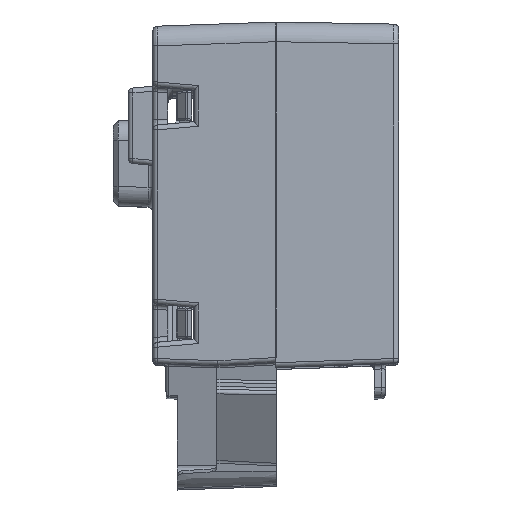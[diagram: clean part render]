
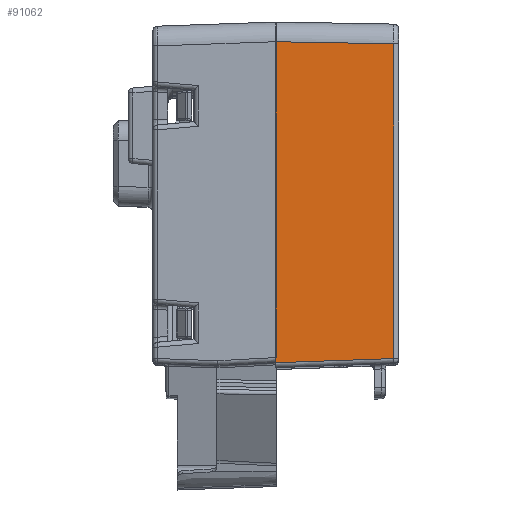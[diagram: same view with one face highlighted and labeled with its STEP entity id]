
A CAD part, top view. The second image highlights one B-rep face of the part: STEP entity #91062.
In plain terms, the highlighted planar face has unit normal (0.018, 0, 1).
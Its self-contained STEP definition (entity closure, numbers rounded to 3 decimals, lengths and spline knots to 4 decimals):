
#871=ELLIPSE('',#96623,0.5648,0.0197);
#1096=ELLIPSE('',#97488,2.2576,0.0787);
#7396=FACE_OUTER_BOUND('',#12449,.T.);
#12449=EDGE_LOOP('',(#75232,#75233,#75234,#75235,#75236,#75237,#75238,#75239,
#75240,#75241,#75242,#75243,#75244));
#23477=LINE('',#148717,#32544);
#23548=LINE('',#148925,#32615);
#23553=LINE('',#148938,#32620);
#23556=LINE('',#148949,#32623);
#23558=LINE('',#148952,#32625);
#23568=LINE('',#148995,#32635);
#23676=LINE('',#150945,#32743);
#23677=LINE('',#150947,#32744);
#23678=LINE('',#150949,#32745);
#23679=LINE('',#150951,#32746);
#23680=LINE('',#150952,#32747);
#32544=VECTOR('',#117798,0.3937);
#32615=VECTOR('',#117979,0.3937);
#32620=VECTOR('',#117990,0.3937);
#32623=VECTOR('',#118007,0.3937);
#32625=VECTOR('',#118011,0.3937);
#32635=VECTOR('',#118055,0.3937);
#32743=VECTOR('',#119113,39.3701);
#32744=VECTOR('',#119114,39.3701);
#32745=VECTOR('',#119115,39.3701);
#32746=VECTOR('',#119116,39.3701);
#32747=VECTOR('',#119117,39.3701);
#39985=VERTEX_POINT('',#143482);
#39986=VERTEX_POINT('',#143483);
#40531=VERTEX_POINT('',#148716);
#40587=VERTEX_POINT('',#148924);
#40591=VERTEX_POINT('',#148936);
#40592=VERTEX_POINT('',#148937);
#40593=VERTEX_POINT('',#148948);
#40609=VERTEX_POINT('',#148994);
#40614=VERTEX_POINT('',#149109);
#40734=VERTEX_POINT('',#150944);
#40735=VERTEX_POINT('',#150946);
#40736=VERTEX_POINT('',#150948);
#40737=VERTEX_POINT('',#150950);
#50919=EDGE_CURVE('',#39985,#39986,#871,.T.);
#51927=EDGE_CURVE('',#39986,#40531,#23477,.T.);
#52016=EDGE_CURVE('',#40587,#39985,#23548,.T.);
#52022=EDGE_CURVE('',#40591,#40592,#23553,.T.);
#52025=EDGE_CURVE('',#40593,#40591,#23556,.T.);
#52027=EDGE_CURVE('',#40592,#40587,#23558,.T.);
#52049=EDGE_CURVE('',#40609,#40593,#23568,.T.);
#52104=EDGE_CURVE('',#40531,#40614,#1096,.T.);
#52444=EDGE_CURVE('',#40734,#40614,#23676,.T.);
#52445=EDGE_CURVE('',#40735,#40734,#23677,.T.);
#52446=EDGE_CURVE('',#40736,#40735,#23678,.T.);
#52447=EDGE_CURVE('',#40737,#40736,#23679,.T.);
#52448=EDGE_CURVE('',#40609,#40737,#23680,.T.);
#75232=ORIENTED_EDGE('',*,*,#52022,.T.);
#75233=ORIENTED_EDGE('',*,*,#52027,.T.);
#75234=ORIENTED_EDGE('',*,*,#52016,.T.);
#75235=ORIENTED_EDGE('',*,*,#50919,.T.);
#75236=ORIENTED_EDGE('',*,*,#51927,.T.);
#75237=ORIENTED_EDGE('',*,*,#52104,.T.);
#75238=ORIENTED_EDGE('',*,*,#52444,.F.);
#75239=ORIENTED_EDGE('',*,*,#52445,.F.);
#75240=ORIENTED_EDGE('',*,*,#52446,.F.);
#75241=ORIENTED_EDGE('',*,*,#52447,.F.);
#75242=ORIENTED_EDGE('',*,*,#52448,.F.);
#75243=ORIENTED_EDGE('',*,*,#52049,.T.);
#75244=ORIENTED_EDGE('',*,*,#52025,.T.);
#82556=PLANE('',#97867);
#91062=ADVANCED_FACE('',(#7396),#82556,.T.);
#96623=AXIS2_PLACEMENT_3D('',#143484,#115844,#115845);
#97488=AXIS2_PLACEMENT_3D('',#149110,#118248,#118249);
#97867=AXIS2_PLACEMENT_3D('',#150943,#119111,#119112);
#115844=DIRECTION('center_axis',(-0.017,0.,
-1.));
#115845=DIRECTION('ref_axis',(0.998,0.052,-0.017));
#117798=DIRECTION('',(0.,1.,0.));
#117979=DIRECTION('',(0.,-1.,0.));
#117990=DIRECTION('',(0.,-1.,0.));
#118007=DIRECTION('',(0.,-1.,0.));
#118011=DIRECTION('',(0.,-1.,0.));
#118055=DIRECTION('',(0.,-1.,0.));
#118248=DIRECTION('center_axis',(-0.017,0.,
-1.));
#118249=DIRECTION('ref_axis',(0.999,0.035,-0.017));
#119111=DIRECTION('center_axis',(0.017,0.,
1.));
#119112=DIRECTION('ref_axis',(-1.,0.,0.017));
#119113=DIRECTION('',(1.,-0.017,-0.017));
#119114=DIRECTION('',(0.,1.,0.));
#119115=DIRECTION('',(-0.999,-0.035,0.017));
#119116=DIRECTION('',(0.,-1.,0.));
#119117=DIRECTION('',(1.,-0.017,-0.017));
#143482=CARTESIAN_POINT('',(0.4724,-0.8305,0.1279));
#143483=CARTESIAN_POINT('',(0.4705,-0.829,0.1279));
#143484=CARTESIAN_POINT('Origin',(1.0344,-0.7994,0.1181));
#148716=CARTESIAN_POINT('',(0.4705,0.4299,0.1279));
#148717=CARTESIAN_POINT('',(0.4705,-0.1878,0.1279));
#148924=CARTESIAN_POINT('',(0.4724,-0.7608,0.1279));
#148925=CARTESIAN_POINT('',(0.4724,-0.5285,0.1279));
#148936=CARTESIAN_POINT('',(0.4724,0.1054,0.1279));
#148937=CARTESIAN_POINT('',(0.4724,-0.6234,0.1279));
#148938=CARTESIAN_POINT('',(0.4724,-0.5285,0.1279));
#148948=CARTESIAN_POINT('',(0.4724,0.2428,0.1279));
#148949=CARTESIAN_POINT('',(0.4724,0.0246,0.1279));
#148952=CARTESIAN_POINT('',(0.4724,-0.4085,0.1279));
#148994=CARTESIAN_POINT('',(0.4724,0.4299,0.1279));
#148995=CARTESIAN_POINT('',(0.4724,-0.5285,0.1279));
#149109=CARTESIAN_POINT('',(0.4705,0.4299,0.1279));
#149110=CARTESIAN_POINT('Origin',(2.7263,0.5086,0.0885));
#150943=CARTESIAN_POINT('Origin',(0.4685,-0.1879,0.128));
#150944=CARTESIAN_POINT('',(0.4685,0.43,0.128));
#150945=CARTESIAN_POINT('',(0.4793,0.4298,0.1278));
#150946=CARTESIAN_POINT('',(0.4685,-0.8496,0.128));
#150947=CARTESIAN_POINT('',(0.4685,-0.1879,0.128));
#150948=CARTESIAN_POINT('',(0.9413,-0.8331,0.1197));
#150949=CARTESIAN_POINT('',(0.4678,-0.8496,0.128));
#150950=CARTESIAN_POINT('',(0.9413,0.4217,0.1197));
#150951=CARTESIAN_POINT('',(0.9413,-0.1879,0.1197));
#150952=CARTESIAN_POINT('',(0.4793,0.4298,0.1278));
